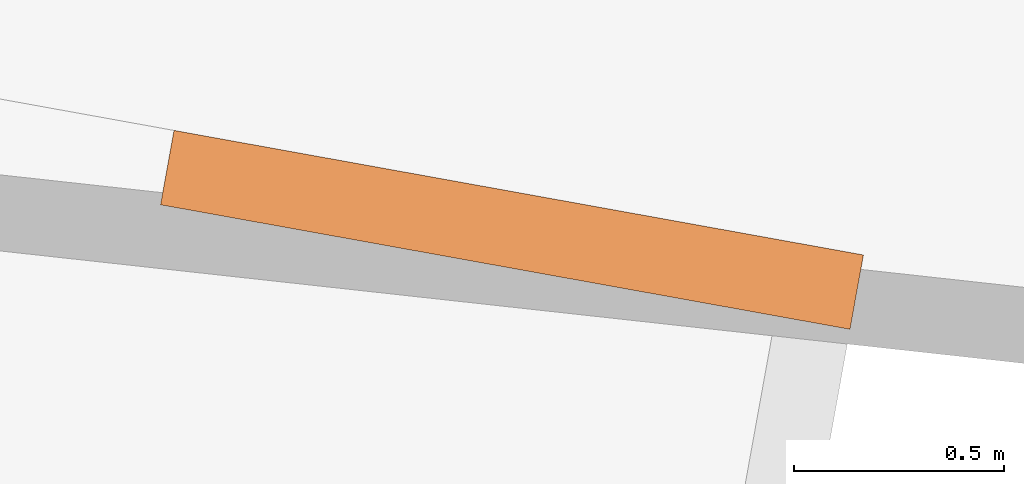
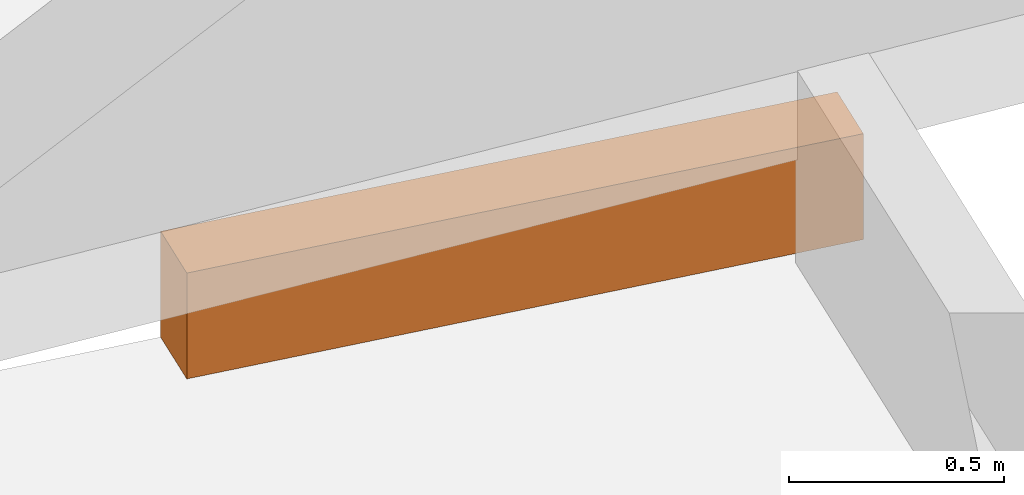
# One storey, part 2 of 2: 1 proxy.
"""IFC2X3 building model written with IfcOpenShell, lengths in metres."""

from ifc_helpers import new_model, entity, si_unit, converted_unit, derived_unit, money_unit, direction, frame, origin_with_axes, place, context, subcontext, project, spatial, polyline, outline, extrude, material, type_object, element, save


model = new_model("IFC2X3")

# Units and contexts
model_context = context("Model", 3, precision=1e-05, world=origin_with_axes(), true_north=direction((0.0, 1.0)))
body_context = subcontext(model_context, "Body", "Model", "MODEL_VIEW")
ifc_project = project(units=[si_unit("LENGTHUNIT", "METRE"), si_unit("AREAUNIT", "SQUARE_METRE"), si_unit("VOLUMEUNIT", "CUBIC_METRE"), converted_unit("PLANEANGLEUNIT", "DEGREE", entity("IfcPlaneAngleMeasure", 0.0174532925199), si_unit("PLANEANGLEUNIT", "RADIAN"), dimensions=[0, 0, 0, 0, 0, 0, 0]), money_unit("CHF"), converted_unit("TIMEUNIT", "Year", entity("IfcTimeMeasure", 31556926.0), si_unit("TIMEUNIT", "SECOND"), dimensions=[0, 0, 1, 0, 0, 0, 0]), si_unit("MASSUNIT", "GRAM", prefix="KILO"), si_unit("THERMODYNAMICTEMPERATUREUNIT", "DEGREE_CELSIUS"), si_unit("LUMINOUSINTENSITYUNIT", "LUMEN"), si_unit("ENERGYUNIT", "JOULE", prefix="MEGA"), derived_unit("THERMALCONDUCTANCEUNIT", [(si_unit("POWERUNIT", "WATT"), 1), (si_unit("LENGTHUNIT", "METRE"), -1), (si_unit("THERMODYNAMICTEMPERATUREUNIT", "KELVIN"), -1)]), derived_unit("SPECIFICHEATCAPACITYUNIT", [(si_unit("ENERGYUNIT", "JOULE"), 1), (si_unit("MASSUNIT", "GRAM", prefix="KILO"), -1), (si_unit("THERMODYNAMICTEMPERATUREUNIT", "KELVIN"), -1)]), derived_unit("MASSDENSITYUNIT", [(si_unit("MASSUNIT", "GRAM", prefix="KILO"), 1), (si_unit("VOLUMEUNIT", "CUBIC_METRE"), -1)])], contexts=[model_context])

# Site, building, storey
site_placement = place(None, frame((0.0, 0.0, 0.0), z_axis=(0.0, 0.0, 1.0), x_axis=(-0.177771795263, -0.984071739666, 0.0)))
site = spatial("IfcSite", under=ifc_project, at=site_placement, Name="Site", CompositionType="ELEMENT")
building_placement = place(site_placement, origin_with_axes())
building = spatial("IfcBuilding", under=site, at=building_placement, Name="Bâtiment", CompositionType="ELEMENT")
storey_placement = place(building_placement, frame((0.0, 0.0, 6.55), z_axis=(0.0, 0.0, 1.0), x_axis=(1.0, 0.0, 0.0)))
storey = spatial("IfcBuildingStorey", under=building, at=storey_placement, Name="Toit & PM", CompositionType="ELEMENT", Elevation=6.55)

# Proxy
ifc_material = material(Name="_BA banché RAL9007")
building_element_proxy_type = type_object("IfcBuildingElementProxyType", Name="_BA banché RAL9007 180", PredefinedType="NOTDEFINED")
proxy_placement = place(storey_placement, frame((109.924841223, -149.786151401, -0.25), z_axis=(0.0, 0.0, 1.0), x_axis=(0.0, 1.0, 0.0)))
element("IfcBuildingElementProxy", 1, at=proxy_placement, inside=storey, type_object=building_element_proxy_type, material=ifc_material, Name="M retour", context=body_context, shape_type="SweptSolid", body=[
    extrude(outline(polyline([(0.0, -0.18), (1.66899999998, -0.18), (1.66899999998, 0.0), (0.0, 0.0), (0.0, -0.18)])), origin_with_axes(), (0.0, 0.0, 1.0), 0.3),
])

save(model, "model.ifc")
